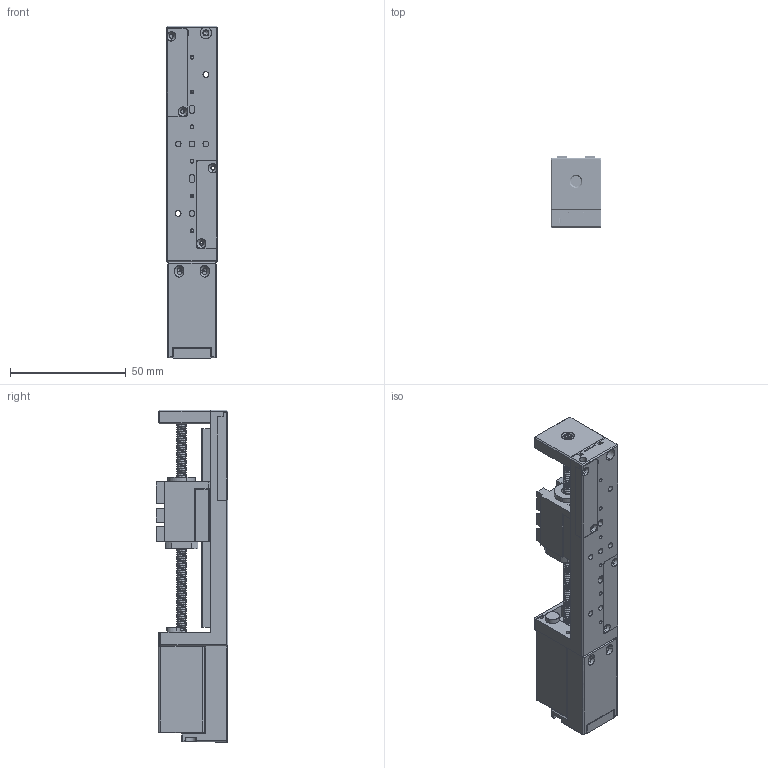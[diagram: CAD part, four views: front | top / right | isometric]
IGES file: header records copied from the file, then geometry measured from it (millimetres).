
Start section: SolidWorks IGES file using analytic representation for surfaces
Bounding box: 22 x 31 x 143.5 mm (x, y, z)
Surface area: 35733.7 mm2 (no closed solid volume)
Topology: 0 solids, 0 shells, 1070 faces, 17265 edges, 17202 vertices
Faces by surface type: revolution 625, bspline 445
